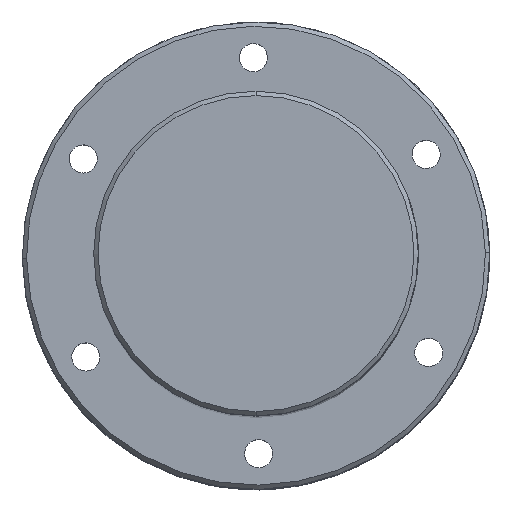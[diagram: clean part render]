
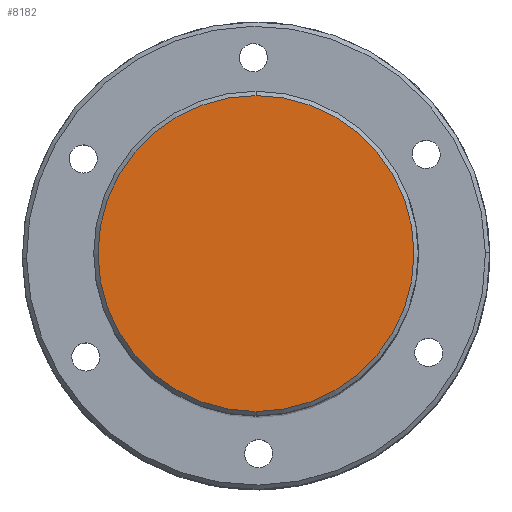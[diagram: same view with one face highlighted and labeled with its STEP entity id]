
A CAD part, top view. The second image highlights one B-rep face of the part: STEP entity #8182.
In plain terms, the highlighted planar face has unit normal (0, 0, 1) as drawn and (-1, 0, 0) by its records, which use the part's own axes.
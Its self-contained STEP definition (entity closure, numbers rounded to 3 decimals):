
#1985 = AXIS2_PLACEMENT_3D ( 'NONE', #11052, #8002, #8240 ) ;
#2322 = CARTESIAN_POINT ( 'NONE',  ( 0., 0., 36.5 ) ) ;
#6679 = VERTEX_POINT ( 'NONE', #2322 ) ;
#6962 = VERTEX_POINT ( 'NONE', #7583 ) ;
#7545 = DIRECTION ( 'NONE',  ( 0., 0., -1. ) ) ;
#7583 = CARTESIAN_POINT ( 'NONE',  ( 0., 0., -36.5 ) ) ;
#8002 = DIRECTION ( 'NONE',  ( 1., 0., 0. ) ) ;
#8182 = ADVANCED_FACE ( 'NONE', ( #12341 ), #8356, .F. ) ;
#8240 = DIRECTION ( 'NONE',  ( 0., 0., -1. ) ) ;
#8356 = PLANE ( 'NONE',  #1985 ) ;
#9081 = AXIS2_PLACEMENT_3D ( 'NONE', #17037, #15619, #7545 ) ;
#10122 = CIRCLE ( 'NONE', #9081, 36.5 ) ;
#10776 = EDGE_CURVE ( 'NONE', #6679, #6962, #13624, .T. ) ;
#10847 = DIRECTION ( 'NONE',  ( -1., 0., 0. ) ) ;
#11052 = CARTESIAN_POINT ( 'NONE',  ( 0., 0., 0. ) ) ;
#12028 = EDGE_LOOP ( 'NONE', ( #16126, #17182 ) ) ;
#12341 = FACE_OUTER_BOUND ( 'NONE', #12028, .T. ) ;
#13624 = CIRCLE ( 'NONE', #16938, 36.5 ) ;
#15209 = DIRECTION ( 'NONE',  ( 0., 0., -1. ) ) ;
#15619 = DIRECTION ( 'NONE',  ( -1., 0., 0. ) ) ;
#16112 = EDGE_CURVE ( 'NONE', #6962, #6679, #10122, .T. ) ;
#16126 = ORIENTED_EDGE ( 'NONE', *, *, #16112, .T. ) ;
#16938 = AXIS2_PLACEMENT_3D ( 'NONE', #17392, #10847, #15209 ) ;
#17037 = CARTESIAN_POINT ( 'NONE',  ( 0., 0., 0. ) ) ;
#17182 = ORIENTED_EDGE ( 'NONE', *, *, #10776, .T. ) ;
#17392 = CARTESIAN_POINT ( 'NONE',  ( 0., 0., 0. ) ) ;
